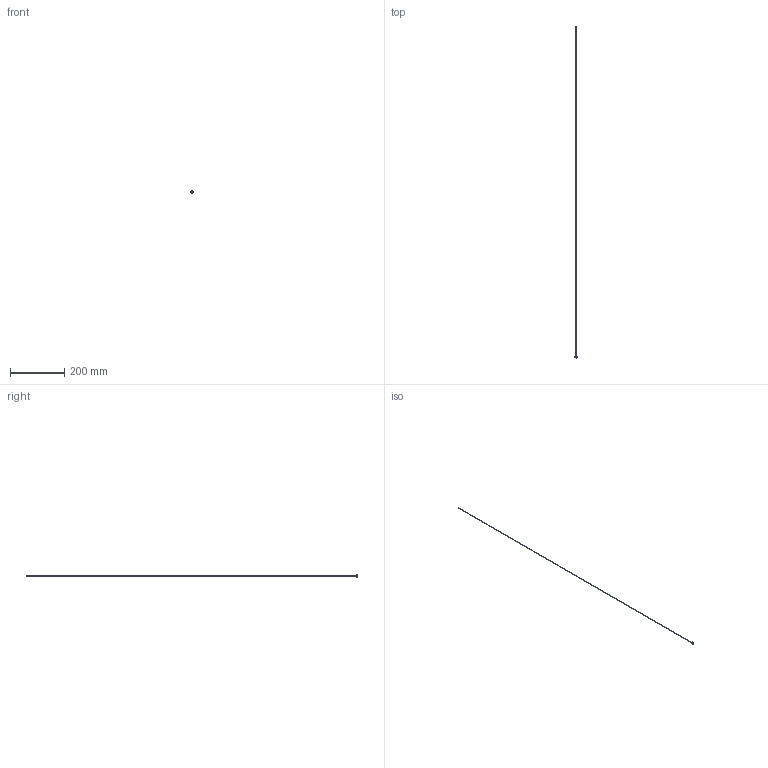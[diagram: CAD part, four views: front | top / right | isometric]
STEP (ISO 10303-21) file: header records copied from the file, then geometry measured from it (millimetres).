
FILE_DESCRIPTION(/* description */ (''),/* implementation_level */ '2;1');
FILE_NAME(/* name */ 'C:/Users/drich/Desktop/PT16-093-48 v1.step',/* time_stamp */ '2019-12-27T15:16:08-06:00',/* author */ (''),/* organization */ (''),/* preprocessor_version */ 'ST-DEVELOPER v18',/* originating_system */ 'Autodesk Translation Framework v8.12.0.6',/* authorisation */ '');
FILE_SCHEMA (('AUTOMOTIVE_DESIGN { 1 0 10303 214 3 1 1 }'));
Length unit declared in the file: inch
Products named in the file (1): PT16-093-48
Bounding box: 7.62 x 1219.2 x 7.62 mm (x, y, z)
Volume: 1660.4 mm3; surface area: 16357.9 mm2
Topology: 1 solids, 1 shells, 19 faces, 48 edges, 34 vertices
Faces by surface type: plane 11, cylinder 4, torus 2, cone 2
Full cylindrical faces by diameter (mm): 1.93 x1, 2.286 x1, 4.724 x1, 7.616 x1
Entity records: 633 total; most frequent: DIRECTION 112, CARTESIAN_POINT 102, ORIENTED_EDGE 96, EDGE_CURVE 48, AXIS2_PLACEMENT_3D 44, VERTEX_POINT 34, CIRCLE 24, EDGE_LOOP 24
